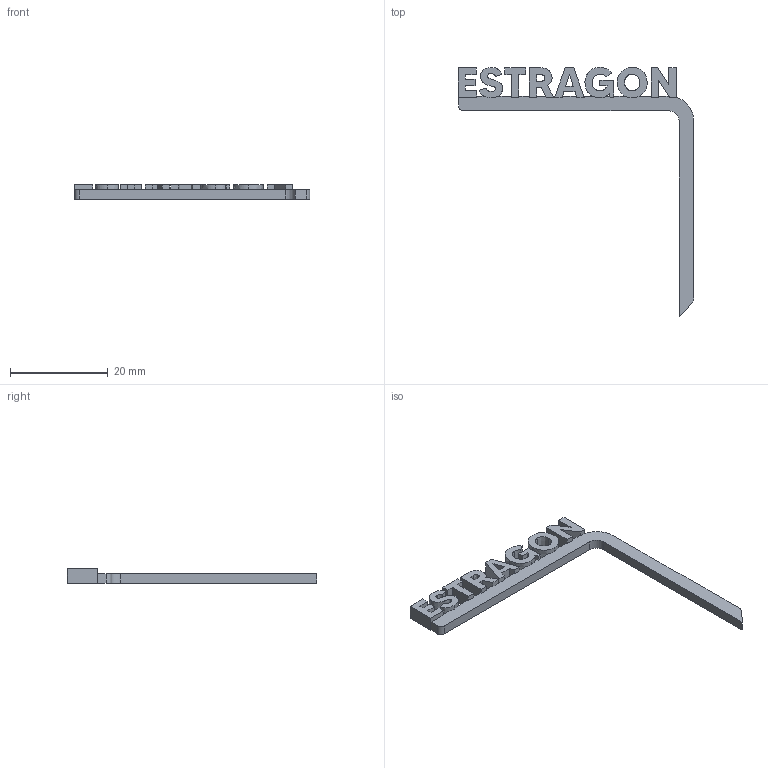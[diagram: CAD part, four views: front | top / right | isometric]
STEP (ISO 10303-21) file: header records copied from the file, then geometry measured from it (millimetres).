
FILE_DESCRIPTION(('STEP AP214'),'1');
FILE_NAME('Estragon.stp','2025-04-24T13:30:33',(' '),(' '),'Spatial InterOp 3D',' ',' ');
FILE_SCHEMA(('AUTOMOTIVE_DESIGN { 1 0 10303 214 1 1 1 1 }'));
Length unit declared in the file: millimetre
Products named in the file (1): Estragon
Bounding box: 48.06 x 50.9 x 3 mm (x, y, z)
Volume: 971.7 mm3; surface area: 1782.1 mm2
Topology: 1 solids, 1 shells, 123 faces, 377 edges, 252 vertices
Faces by surface type: plane 87, extrusion 32, cylinder 4
Entity records: 5531 total; most frequent: CARTESIAN_POINT 1247, ORIENTED_EDGE 754, DIRECTION 529, EDGE_CURVE 377, VECTOR 329, LINE 297, VERTEX_POINT 252, EDGE_LOOP 133
